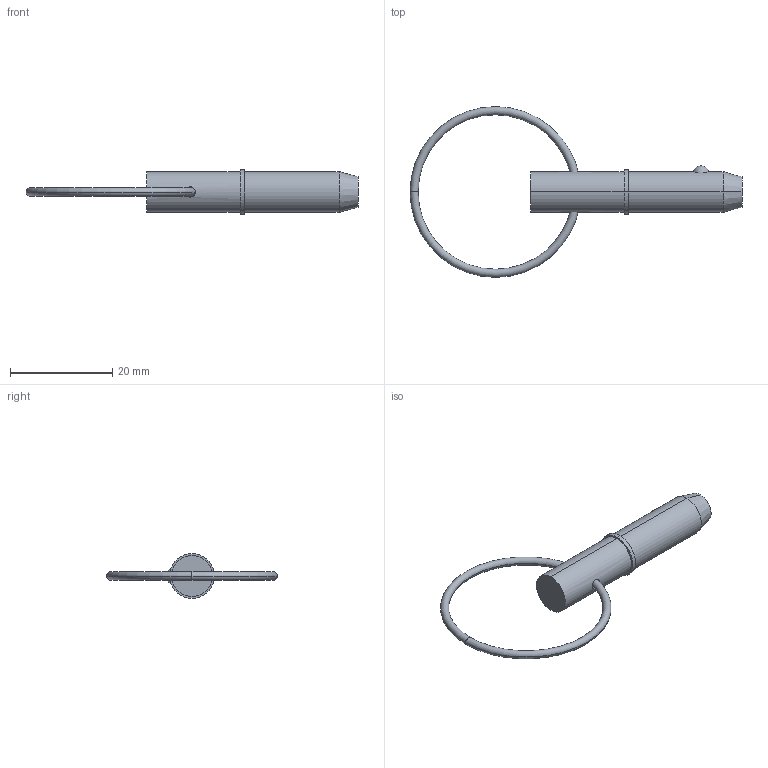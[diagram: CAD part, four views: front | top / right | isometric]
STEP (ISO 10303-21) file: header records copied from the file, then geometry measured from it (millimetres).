
FILE_DESCRIPTION (( 'STEP AP203' ), '1' );
FILE_NAME ('33014.W3105.step', '2024-11-04T08:24:25', ( '' ), ( '' ), 'SwSTEP 2.0', 'SolidWorks 2019', '' );
FILE_SCHEMA (( 'CONFIG_CONTROL_DESIGN' ));
Length unit declared in the file: millimetre
Products named in the file (3): 33014.W3105; Part1_33014.W3105; Part2_33014.W3105
Assembly tree (2 placements, depth 2):
  33014.W3105
    Part1_33014.W3105
    Part2_33014.W3105
Bounding box: 64.82 x 33.34 x 8.73 mm (x, y, z)
Volume: 2188.5 mm3; surface area: 1666.8 mm2
Topology: 2 solids, 2 shells, 22 faces, 43 edges, 26 vertices
Faces by surface type: torus 8, cylinder 6, plane 4, sphere 2, cone 2
Entity records: 989 total; most frequent: CARTESIAN_POINT 212, DIRECTION 120, ORIENTED_EDGE 86, AXIS2_PLACEMENT_3D 56, EDGE_CURVE 43, CIRCLE 29, EDGE_LOOP 27, VERTEX_POINT 26
